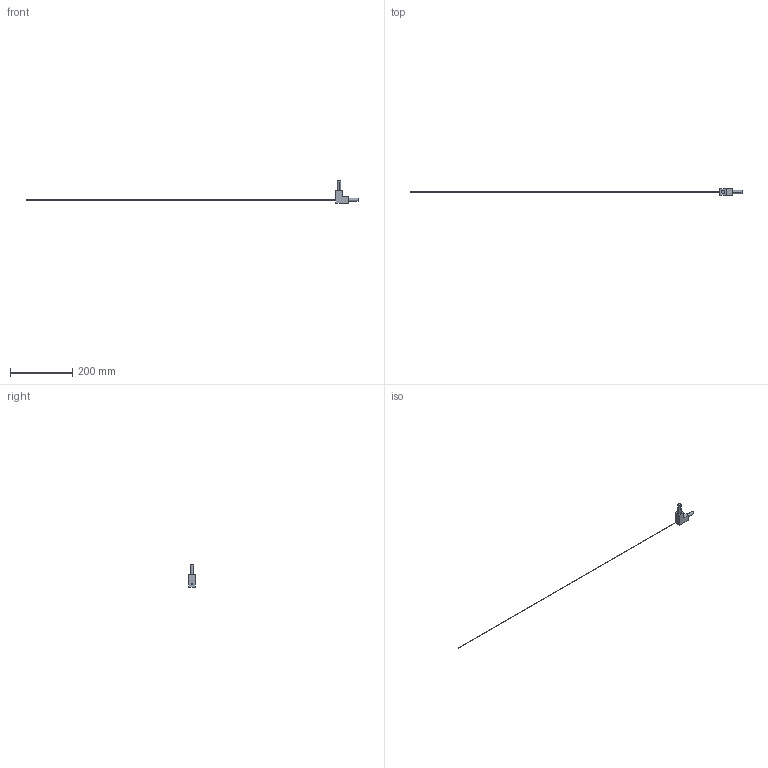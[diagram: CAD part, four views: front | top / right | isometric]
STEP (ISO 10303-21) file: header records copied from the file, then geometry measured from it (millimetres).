
FILE_DESCRIPTION (( 'STEP AP214' ), '1' );
FILE_NAME ('3D_LINESCAPES_UP_VERT_ANGLE.STEP', '2018-03-02T15:55:48', ( 'Utente' ), ( '' ), 'SwSTEP 2.0', 'SolidWorks 2016', '' );
FILE_SCHEMA (( 'AUTOMOTIVE_DESIGN' ));
Length unit declared in the file: millimetre
Products named in the file (4): CAVO1.2UP; TECUP; ANGOLOUP; 3D_LINESCAPES_UP_VERT_ANGLE
Assembly tree (4 placements, depth 2):
  3D_LINESCAPES_UP_VERT_ANGLE
    ANGOLOUP
    TECUP  x2
    CAVO1.2UP
Bounding box: 1066 x 20 x 71 mm (x, y, z)
Volume: 29994.8 mm3; surface area: 11615.3 mm2
Topology: 4 solids, 4 shells, 20 faces, 36 edges, 24 vertices
Faces by surface type: plane 14, cylinder 6
Entity records: 564 total; most frequent: DIRECTION 84, CARTESIAN_POINT 73, ORIENTED_EDGE 60, AXIS2_PLACEMENT_3D 31, EDGE_CURVE 30, LINE 22, VECTOR 22, VERTEX_POINT 20
